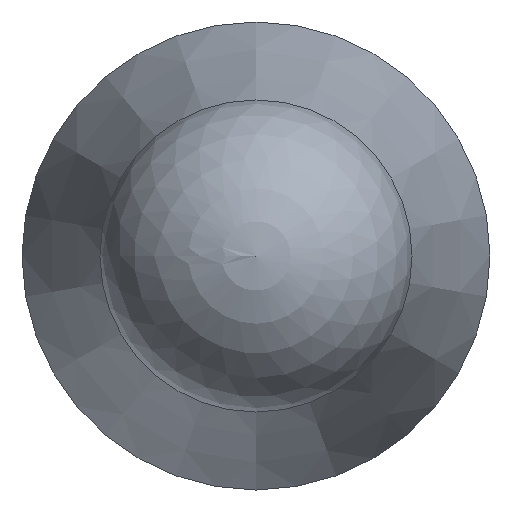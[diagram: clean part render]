
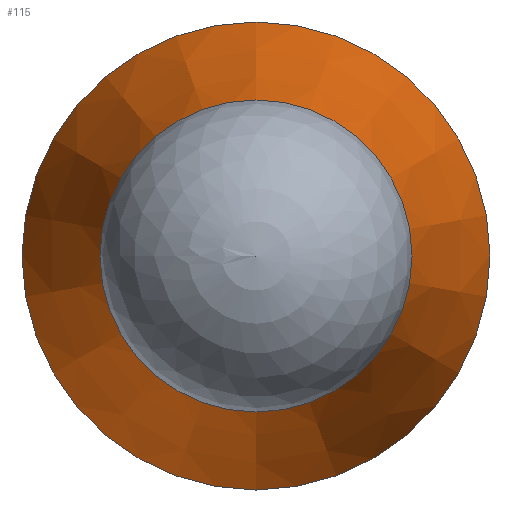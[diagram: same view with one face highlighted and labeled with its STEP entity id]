
A CAD part, left-side view. The second image highlights one B-rep face of the part: STEP entity #115.
In plain terms, the highlighted conical face has half-angle 15 degrees and reference radius 3 mm.
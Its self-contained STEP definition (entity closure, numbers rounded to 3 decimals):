
#96=CONICAL_SURFACE('',#181,3.,15.);
#103=FACE_BOUND('',#128,.T.);
#104=FACE_BOUND('',#129,.T.);
#115=ADVANCED_FACE('',(#103,#104),#96,.T.);
#128=EDGE_LOOP('',(#142));
#129=EDGE_LOOP('',(#143));
#142=ORIENTED_EDGE('',*,*,#162,.F.);
#143=ORIENTED_EDGE('',*,*,#163,.T.);
#155=VERTEX_POINT('',#229);
#156=VERTEX_POINT('',#232);
#162=EDGE_CURVE('',#155,#155,#169,.T.);
#163=EDGE_CURVE('',#156,#156,#170,.T.);
#169=CIRCLE('',#178,1.95);
#170=CIRCLE('',#180,3.);
#178=AXIS2_PLACEMENT_3D('',#228,#198,#199);
#180=AXIS2_PLACEMENT_3D('',#231,#202,#203);
#181=AXIS2_PLACEMENT_3D('',#233,#204,#205);
#198=DIRECTION('',(-1.,0.,0.));
#199=DIRECTION('',(0.,0.,1.));
#202=DIRECTION('',(-1.,0.,0.));
#203=DIRECTION('',(0.,0.,1.));
#204=DIRECTION('',(1.,0.,0.));
#205=DIRECTION('',(0.,0.,-1.));
#228=CARTESIAN_POINT('',(7905.912,6103.288,0.));
#229=CARTESIAN_POINT('',(7905.912,6103.288,1.95));
#231=CARTESIAN_POINT('',(7909.83,6103.288,0.));
#232=CARTESIAN_POINT('',(7909.83,6103.288,3.));
#233=CARTESIAN_POINT('',(7909.83,6103.288,0.));
